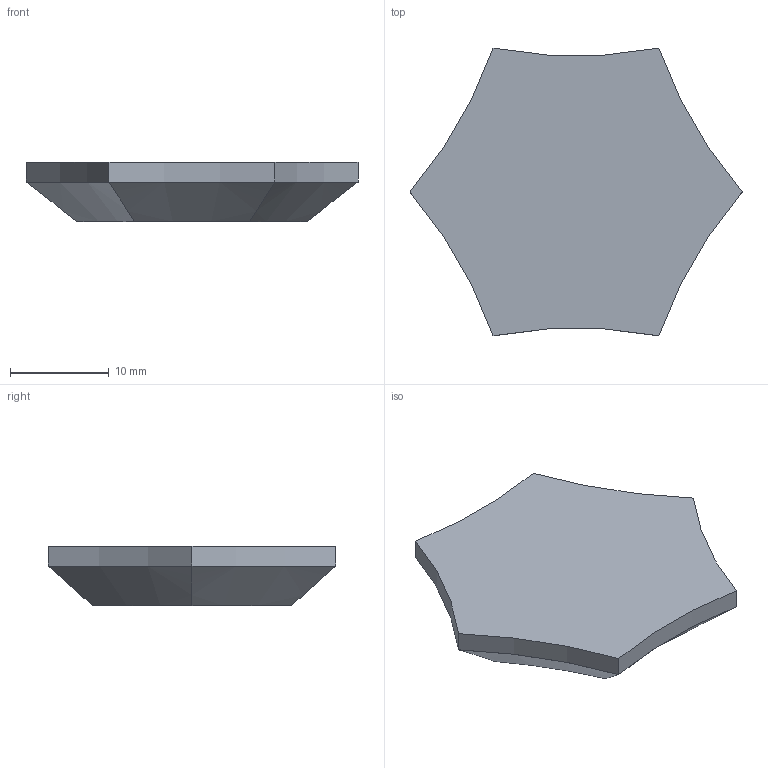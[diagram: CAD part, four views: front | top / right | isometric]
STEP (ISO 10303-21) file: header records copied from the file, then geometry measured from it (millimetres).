
FILE_DESCRIPTION(('FreeCAD Model'),'2;1');
FILE_NAME('Open CASCADE Shape Model','2025-12-23T13:23:21',(''),(''), 'Open CASCADE STEP processor 7.8','FreeCAD','Unknown');
FILE_SCHEMA(('AUTOMOTIVE_DESIGN { 1 0 10303 214 1 1 1 1 }'));
Length unit declared in the file: millimetre
Products named in the file (1): Body
Bounding box: 33.55 x 29.05 x 6 mm (x, y, z)
Volume: 2802 mm3; surface area: 1884.3 mm2
Topology: 1 solids, 1 shells, 23 faces, 51 edges, 32 vertices
Faces by surface type: cylinder 12, cone 7, plane 4
Entity records: 676 total; most frequent: DIRECTION 136, CARTESIAN_POINT 108, ORIENTED_EDGE 102, AXIS2_PLACEMENT_3D 62, EDGE_CURVE 51, VERTEX_POINT 32, CIRCLE 32, FACE_BOUND 25
